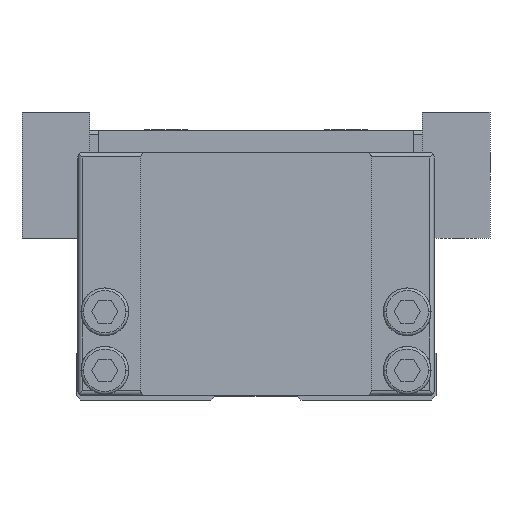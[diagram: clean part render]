
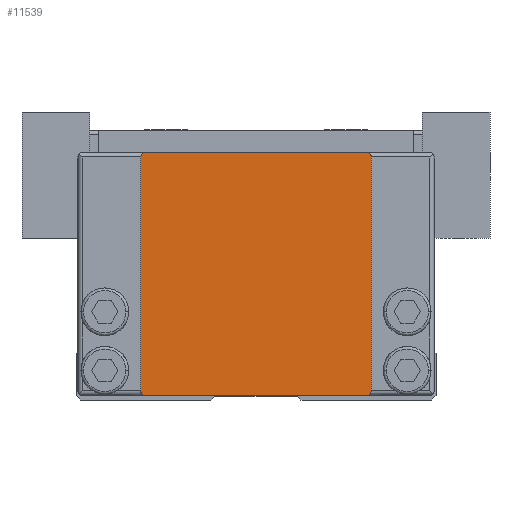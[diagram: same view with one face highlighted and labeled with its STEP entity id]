
A CAD part, front view. The second image highlights one B-rep face of the part: STEP entity #11539.
In plain terms, the highlighted planar face has unit normal (0, -1, 0).
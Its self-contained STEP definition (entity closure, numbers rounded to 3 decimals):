
#8053=EDGE_CURVE('',#16089,#10461,#22741,.T.);
#8953=VERTEX_POINT('',#23723);
#10461=VERTEX_POINT('',#25379);
#10583=VERTEX_POINT('',#25511);
#11113=EDGE_CURVE('',#18055,#16089,#26100,.T.);
#11539=ADVANCED_FACE('',(#26564),#26565,.T.);
#11779=EDGE_CURVE('',#10583,#14369,#26836,.T.);
#12093=EDGE_CURVE('',#8953,#18933,#27174,.T.);
#13747=EDGE_CURVE('',#10461,#18441,#29019,.T.);
#14305=EDGE_CURVE('',#18933,#18055,#29648,.T.);
#14369=VERTEX_POINT('',#29722);
#14733=EDGE_CURVE('',#14369,#8953,#30117,.T.);
#16089=VERTEX_POINT('',#31623);
#17945=EDGE_CURVE('',#18441,#10583,#33676,.T.);
#18055=VERTEX_POINT('',#33797);
#18441=VERTEX_POINT('',#34233);
#18933=VERTEX_POINT('',#34768);
#22741=LINE('',#39297,#39298);
#23723=CARTESIAN_POINT('',(12.3,0.0,27.5));
#25379=CARTESIAN_POINT('',(-12.3,0.0,0.5));
#25511=CARTESIAN_POINT('',(-12.8,0.0,27.0));
#26100=CIRCLE('',#44344,0.5);
#26564=FACE_OUTER_BOUND('',#45081,.T.);
#26565=PLANE('',#45082);
#26836=CIRCLE('',#45449,0.5);
#27174=CIRCLE('',#45940,0.5);
#29019=CIRCLE('',#48644,0.5);
#29648=LINE('',#49618,#49619);
#29722=CARTESIAN_POINT('',(-12.3,0.0,27.5));
#30117=LINE('',#50336,#50337);
#31623=CARTESIAN_POINT('',(12.3,0.0,0.5));
#33676=LINE('',#55522,#55523);
#33797=CARTESIAN_POINT('',(12.8,0.0,1.0));
#34233=CARTESIAN_POINT('',(-12.8,0.0,1.0));
#34768=CARTESIAN_POINT('',(12.8,0.0,27.0));
#39297=CARTESIAN_POINT('',(-12.3,0.0,0.5));
#39298=VECTOR('',#62885,1.0);
#44344=AXIS2_PLACEMENT_3D('',#66709,#66710,#66711);
#45081=EDGE_LOOP('',(#67198,#67199,#67200,#67201,#67202,#67203,#67204,#67205));
#45082=AXIS2_PLACEMENT_3D('',#67206,#67207,#67208);
#45449=AXIS2_PLACEMENT_3D('',#67532,#67533,#67534);
#45940=AXIS2_PLACEMENT_3D('',#67870,#67871,#67872);
#48644=AXIS2_PLACEMENT_3D('',#70139,#70140,#70141);
#49618=CARTESIAN_POINT('',(12.8,0.0,1.0));
#49619=VECTOR('',#70885,1.0);
#50336=CARTESIAN_POINT('',(12.3,0.0,27.5));
#50337=VECTOR('',#71424,1.0);
#55522=CARTESIAN_POINT('',(-12.8,0.0,27.0));
#55523=VECTOR('',#75539,1.0);
#62885=DIRECTION('',(-1.0,0.0,-0.0));
#66709=CARTESIAN_POINT('',(12.3,0.0,1.));
#66710=DIRECTION('',(-0.0,1.0,0.0));
#66711=DIRECTION('',(0.0,0.0,-1.0));
#67198=ORIENTED_EDGE('',*,*,#17945,.F.);
#67199=ORIENTED_EDGE('',*,*,#13747,.F.);
#67200=ORIENTED_EDGE('',*,*,#8053,.F.);
#67201=ORIENTED_EDGE('',*,*,#11113,.F.);
#67202=ORIENTED_EDGE('',*,*,#14305,.F.);
#67203=ORIENTED_EDGE('',*,*,#12093,.F.);
#67204=ORIENTED_EDGE('',*,*,#14733,.F.);
#67205=ORIENTED_EDGE('',*,*,#11779,.F.);
#67206=CARTESIAN_POINT('',(0.,0.0,14.0));
#67207=DIRECTION('',(0.0,-1.0,0.0));
#67208=DIRECTION('',(1.0,0.0,0.0));
#67532=CARTESIAN_POINT('',(-12.3,0.0,27.0));
#67533=DIRECTION('',(0.0,1.0,-0.0));
#67534=DIRECTION('',(0.,0.0,1.0));
#67870=CARTESIAN_POINT('',(12.3,0.0,27.0));
#67871=DIRECTION('',(-0.0,1.0,0.0));
#67872=DIRECTION('',(1.0,0.0,0.));
#70139=CARTESIAN_POINT('',(-12.3,0.0,1.));
#70140=DIRECTION('',(0.0,1.0,-0.0));
#70141=DIRECTION('',(-1.0,0.0,0.));
#70885=DIRECTION('',(-0.0,0.0,-1.0));
#71424=DIRECTION('',(1.0,0.0,0.0));
#75539=DIRECTION('',(0.0,0.0,1.0));
